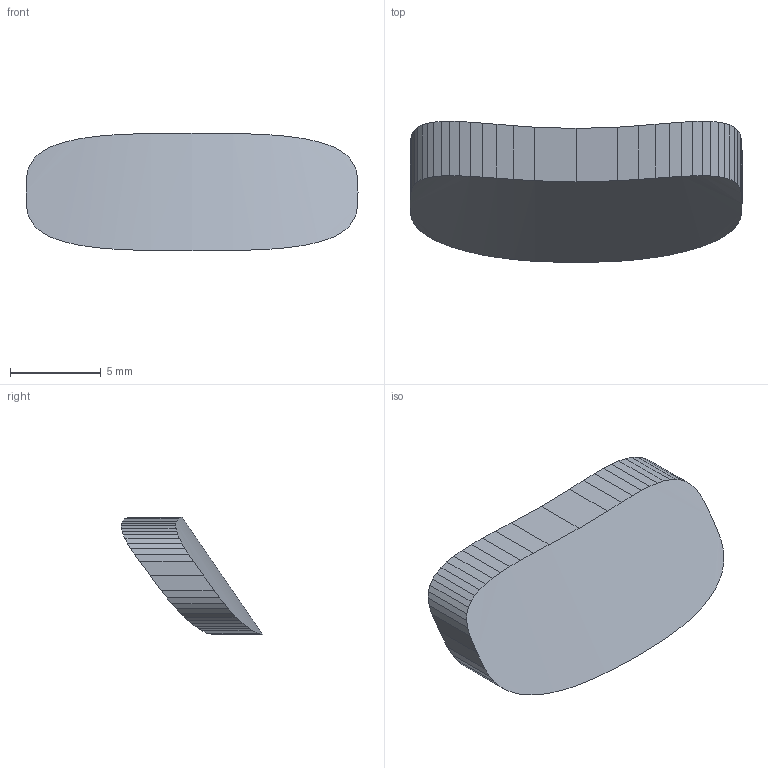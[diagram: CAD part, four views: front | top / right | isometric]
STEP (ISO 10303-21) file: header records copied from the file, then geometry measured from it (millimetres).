
FILE_DESCRIPTION(('FreeCAD Model'),'2;1');
FILE_NAME('Open CASCADE Shape Model','2026-11-20T08:25:34',('FreeCAD'),( 'FreeCAD'),'Open CASCADE STEP processor 7.8','FreeCAD','Unknown');
FILE_SCHEMA(('AUTOMOTIVE_DESIGN { 1 0 10303 214 1 1 1 1 }'));
Length unit declared in the file: millimetre
Products named in the file (1): Open CASCADE STEP translator 7.8 15
Bounding box: 18.27 x 7.77 x 6.45 mm (x, y, z)
Volume: 304.7 mm3; surface area: 388.3 mm2
Topology: 1 solids, 1 shells, 66 faces, 192 edges, 128 vertices
Faces by surface type: plane 64, bspline 2
Entity records: 3314 total; most frequent: CARTESIAN_POINT 1819, ORIENTED_EDGE 384, DIRECTION 194, EDGE_CURVE 192, VERTEX_POINT 128, B_SPLINE_CURVE_WITH_KNOTS 128, ADVANCED_FACE 66, FACE_BOUND 66
